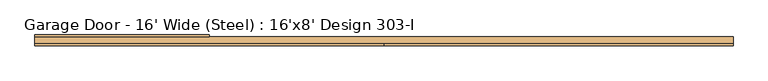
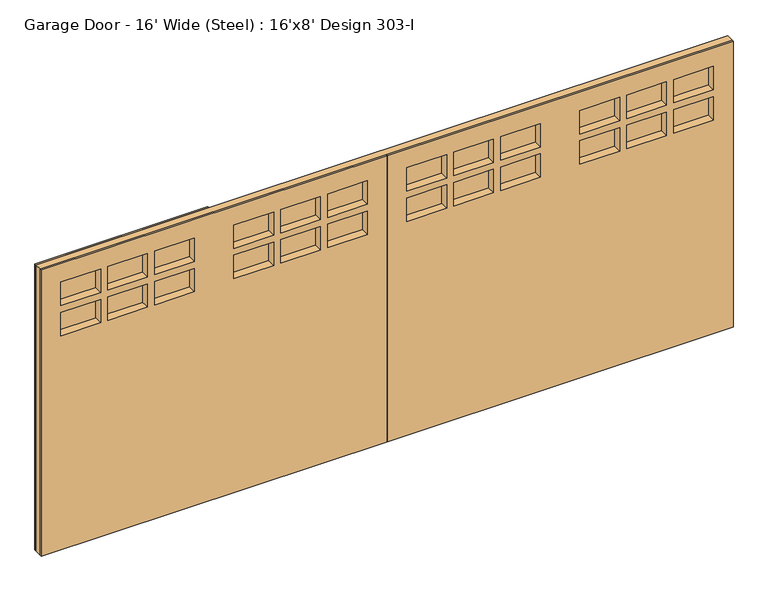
"""IFC4 building model written with IfcOpenShell, lengths in millimetres: door geometry, Garage Door - 16' Wide (Steel) : 16'x8' Design 303-I."""

from ifc_helpers import new_model, si_unit, frame, origin, place, context, project, spatial, polyline, ellipse_curve, outline, extrude, faceted_brep, source, transform, mapped, element, save
from ifc_brep_helpers import plane_surface, cylinder_surface, advanced_brep


def garage_door_16_wide_steel_16_x8_design_303_i_4d817679(model_context):
    return source(origin(), model_context, "Body", "SolidModel", [
        advanced_brep(
        [(-2009.775, -107.15625, 1778.0), (-2009.775, -107.15625, 1584.325), (-2019.3, -116.68125, 1593.85), (-2019.3, -116.68125, 1768.475), (-2009.775, -103.98125, 1778.0), (-2009.775, -103.98125, 1584.325), (-2006.6, -116.68125, 1781.175), (-2006.6, -116.68125, 1581.15), (-2006.6, -103.98125, 1581.15), (-2006.6, -103.98125, 1781.175), (-2308.225, -107.15625, 1584.325), (-2298.7, -116.68125, 1593.85), (-2308.225, -103.98125, 1584.325), (-2311.4, -116.68125, 1581.15), (-2311.4, -103.98125, 1581.15), (-2308.225, -107.15625, 1778.0), (-2298.7, -116.68125, 1768.475), (-2308.225, -103.98125, 1778.0), (-2311.4, -116.68125, 1781.175), (-2311.4, -103.98125, 1781.175)],
        [
            (0, 1),
            (1, 2, ellipse_curve(frame((-2009.775, -116.68125, 1584.325), z_axis=(0.7071067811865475, 0.0, 0.7071067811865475), x_axis=(-0.7071067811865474, 0.0, 0.7071067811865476)), 13.4703842, 9.525)),
            (2, 3),
            (3, 0, ellipse_curve(frame((-2009.775, -116.68125, 1778.0), z_axis=(0.7071067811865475, 0.0, -0.7071067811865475), x_axis=(0.7071067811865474, 0.0, 0.7071067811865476)), 13.4703842, 9.525)),
            (4, 5),
            (5, 1),
            (0, 4),
            (6, 7),
            (7, 8),
            (8, 9),
            (9, 6),
            (1, 10),
            (10, 11, ellipse_curve(frame((-2308.225, -116.68125, 1584.325), z_axis=(0.7071067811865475, 0.0, -0.7071067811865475), x_axis=(0.7071067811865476, 0.0, 0.7071067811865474)), 13.4703842, 9.525)),
            (11, 2),
            (5, 12),
            (12, 10),
            (7, 13),
            (13, 14),
            (14, 8),
            (10, 15),
            (15, 16, ellipse_curve(frame((-2308.225, -116.68125, 1778.0), z_axis=(-0.7071067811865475, 0.0, -0.7071067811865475), x_axis=(0.7071067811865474, 0.0, -0.7071067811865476)), 13.4703842, 9.525)),
            (16, 11),
            (12, 17),
            (17, 15),
            (13, 18),
            (18, 19),
            (19, 14),
            (6, 18),
            (16, 3),
            (15, 0),
            (17, 4),
            (19, 9),
        ],
        [
            cylinder_surface(frame((-2009.775, -116.68125, 1781.175), z_axis=(0.0, 0.0, 1.0), x_axis=(1.0, 0.0, 0.0)), 9.525),
            plane_surface(frame((-2009.775, -107.15625, 1778.0), z_axis=(-1.0, 0.0, 0.0), x_axis=(0.0, 0.0, -1.0))),
            plane_surface(frame((-2006.6, -103.98125, 1781.175), z_axis=(1.0, 0.0, 0.0), x_axis=(0.0, 0.0, -1.0))),
            cylinder_surface(frame((-2006.6, -116.68125, 1584.325), z_axis=(1.0, 0.0, 0.0), x_axis=(0.0, 0.0, -1.0)), 9.525),
            plane_surface(frame((-2009.775, -107.15625, 1584.325), z_axis=(0.0, 0.0, 1.0), x_axis=(-1.0, 0.0, 0.0))),
            plane_surface(frame((-2006.6, -103.98125, 1581.15), z_axis=(0.0, 0.0, -1.0), x_axis=(-1.0, 0.0, 0.0))),
            cylinder_surface(frame((-2308.225, -116.68125, 1581.15), z_axis=(0.0, 0.0, -1.0), x_axis=(-1.0, 0.0, 0.0)), 9.525),
            plane_surface(frame((-2308.225, -107.15625, 1584.325), z_axis=(1.0, 0.0, 0.0), x_axis=(0.0, 0.0, 1.0))),
            plane_surface(frame((-2311.4, -103.98125, 1581.15), z_axis=(-1.0, 0.0, 0.0), x_axis=(0.0, 0.0, 1.0))),
            plane_surface(frame((-2311.4, -116.68125, 1781.175), z_axis=(0.0, -1.0, 0.0), x_axis=(1.0, 0.0, 0.0))),
            cylinder_surface(frame((-2311.4, -116.68125, 1778.0), z_axis=(-1.0, 0.0, 0.0), x_axis=(0.0, 0.0, 1.0)), 9.525),
            plane_surface(frame((-2308.225, -107.15625, 1778.0), z_axis=(0.0, 0.0, -1.0), x_axis=(1.0, 0.0, 0.0))),
            plane_surface(frame((-2308.225, -103.98125, 1778.0), z_axis=(0.0, 1.0, 0.0), x_axis=(1.0, 0.0, 0.0))),
            plane_surface(frame((-2311.4, -103.98125, 1781.175), z_axis=(0.0, 0.0, 1.0), x_axis=(1.0, 0.0, 0.0))),
        ],
        [
            (0, [[1, 2, 3, 4]]),
            (1, [[5, 6, -1, 7]]),
            (2, [[8, 9, 10, 11]]),
            (3, [[12, 13, 14, -2]]),
            (4, [[15, 16, -12, -6]]),
            (5, [[17, 18, 19, -9]]),
            (6, [[20, 21, 22, -13]]),
            (7, [[23, 24, -20, -16]]),
            (8, [[25, 26, 27, -18]]),
            (9, [[-8, 28, -25, -17], [-3, -14, -22, 29]]),
            (10, [[30, -4, -29, -21]]),
            (11, [[31, -7, -30, -24]]),
            (12, [[-10, -19, -27, 32], [-5, -31, -23, -15]]),
            (13, [[-28, -11, -32, -26]]),
        ],
    ),
        advanced_brep(
        [(-1981.2, -103.98125, 1466.85), (-1981.2, -103.98125, 127.0), (-1981.2, -116.68125, 127.0), (-1981.2, -116.68125, 1466.85), (-1978.025, -107.15625, 1463.675), (-1978.025, -107.15625, 130.175), (-1978.025, -103.98125, 130.175), (-1978.025, -103.98125, 1463.675), (-1968.5, -116.68125, 1454.15), (-1968.5, -116.68125, 139.7), (-1676.4, -103.98125, 127.0), (-1676.4, -116.68125, 127.0), (-1679.575, -107.15625, 130.175), (-1679.575, -103.98125, 130.175), (-1689.1, -116.68125, 139.7), (-1676.4, -103.98125, 1466.85), (-1676.4, -116.68125, 1466.85), (-1679.575, -107.15625, 1463.675), (-1679.575, -103.98125, 1463.675), (-1689.1, -116.68125, 1454.15)],
        [
            (0, 1),
            (1, 2),
            (2, 3),
            (3, 0),
            (4, 5),
            (5, 6),
            (6, 7),
            (7, 4),
            (8, 9),
            (9, 5, ellipse_curve(frame((-1978.025, -116.68125, 130.175), z_axis=(-0.7071067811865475, 0.0, 0.7071067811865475), x_axis=(0.7071067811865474, 0.0, 0.7071067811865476)), 13.4703842, 9.525)),
            (4, 8, ellipse_curve(frame((-1978.025, -116.68125, 1463.675), z_axis=(-0.7071067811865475, 0.0, -0.7071067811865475), x_axis=(-0.7071067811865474, 0.0, 0.7071067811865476)), 13.4703842, 9.525)),
            (1, 10),
            (10, 11),
            (11, 2),
            (5, 12),
            (12, 13),
            (13, 6),
            (9, 14),
            (14, 12, ellipse_curve(frame((-1679.575, -116.68125, 130.175), z_axis=(-0.7071067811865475, 0.0, -0.7071067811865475), x_axis=(-0.7071067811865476, 0.0, 0.7071067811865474)), 13.4703842, 9.525)),
            (10, 15),
            (15, 16),
            (16, 11),
            (12, 17),
            (17, 18),
            (18, 13),
            (14, 19),
            (19, 17, ellipse_curve(frame((-1679.575, -116.68125, 1463.675), z_axis=(0.7071067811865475, 0.0, -0.7071067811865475), x_axis=(-0.7071067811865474, 0.0, -0.7071067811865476)), 13.4703842, 9.525)),
            (15, 0),
            (3, 16),
            (18, 7),
            (17, 4),
            (19, 8),
        ],
        [
            plane_surface(frame((-1981.2, -116.68125, 1466.85), z_axis=(-1.0, 0.0, 0.0), x_axis=(0.0, 0.0, -1.0))),
            plane_surface(frame((-1978.025, -103.98125, 1463.675), z_axis=(1.0, 0.0, 0.0), x_axis=(0.0, 0.0, -1.0))),
            cylinder_surface(frame((-1978.025, -116.68125, 1466.85), z_axis=(0.0, 0.0, 1.0), x_axis=(1.0, 0.0, 0.0)), 9.525),
            plane_surface(frame((-1981.2, -116.68125, 127.0), z_axis=(0.0, 0.0, -1.0), x_axis=(1.0, 0.0, 0.0))),
            plane_surface(frame((-1978.025, -103.98125, 130.175), z_axis=(0.0, 0.0, 1.0), x_axis=(1.0, 0.0, 0.0))),
            cylinder_surface(frame((-1981.2, -116.68125, 130.175), z_axis=(-1.0, 0.0, 0.0), x_axis=(0.0, 0.0, 1.0)), 9.525),
            plane_surface(frame((-1676.4, -116.68125, 127.0), z_axis=(1.0, 0.0, 0.0), x_axis=(0.0, 0.0, 1.0))),
            plane_surface(frame((-1679.575, -103.98125, 130.175), z_axis=(-1.0, 0.0, 0.0), x_axis=(0.0, 0.0, 1.0))),
            cylinder_surface(frame((-1679.575, -116.68125, 127.0), z_axis=(0.0, 0.0, -1.0), x_axis=(-1.0, 0.0, 0.0)), 9.525),
            plane_surface(frame((-1676.4, -116.68125, 1466.85), z_axis=(0.0, 0.0, 1.0), x_axis=(-1.0, 0.0, 0.0))),
            plane_surface(frame((-1676.4, -103.98125, 1466.85), z_axis=(0.0, 1.0, 0.0), x_axis=(-1.0, 0.0, 0.0))),
            plane_surface(frame((-1679.575, -103.98125, 1463.675), z_axis=(0.0, 0.0, -1.0), x_axis=(-1.0, 0.0, 0.0))),
            cylinder_surface(frame((-1676.4, -116.68125, 1463.675), z_axis=(1.0, 0.0, 0.0), x_axis=(0.0, 0.0, -1.0)), 9.525),
            plane_surface(frame((-1689.1, -116.68125, 1454.15), z_axis=(0.0, -1.0, 0.0), x_axis=(-1.0, 0.0, 0.0))),
        ],
        [
            (0, [[1, 2, 3, 4]]),
            (1, [[5, 6, 7, 8]]),
            (2, [[9, 10, -5, 11]]),
            (3, [[12, 13, 14, -2]]),
            (4, [[15, 16, 17, -6]]),
            (5, [[18, 19, -15, -10]]),
            (6, [[20, 21, 22, -13]]),
            (7, [[23, 24, 25, -16]]),
            (8, [[26, 27, -23, -19]]),
            (9, [[28, -4, 29, -21]]),
            (10, [[-1, -28, -20, -12], [-7, -17, -25, 30]]),
            (11, [[31, -8, -30, -24]]),
            (12, [[32, -11, -31, -27]]),
            (13, [[-3, -14, -22, -29], [-9, -32, -26, -18]]),
        ],
    ),
        advanced_brep(
        [(-2311.4, -103.98125, 1466.85), (-2311.4, -103.98125, 127.0), (-2311.4, -116.68125, 127.0), (-2311.4, -116.68125, 1466.85), (-2308.225, -107.15625, 1463.675), (-2308.225, -107.15625, 130.175), (-2308.225, -103.98125, 130.175), (-2308.225, -103.98125, 1463.675), (-2298.7, -116.68125, 1454.15), (-2298.7, -116.68125, 139.7), (-2019.3, -103.98125, 127.0), (-2019.3, -116.68125, 127.0), (-2022.475, -107.15625, 130.175), (-2022.475, -103.98125, 130.175), (-2032.0, -116.68125, 139.7), (-2019.3, -103.98125, 1466.85), (-2019.3, -116.68125, 1466.85), (-2022.475, -107.15625, 1463.675), (-2022.475, -103.98125, 1463.675), (-2032.0, -116.68125, 1454.15)],
        [
            (0, 1),
            (1, 2),
            (2, 3),
            (3, 0),
            (4, 5),
            (5, 6),
            (6, 7),
            (7, 4),
            (8, 9),
            (9, 5, ellipse_curve(frame((-2308.225, -116.68125, 130.175), z_axis=(-0.7071067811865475, 0.0, 0.7071067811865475), x_axis=(0.7071067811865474, 0.0, 0.7071067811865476)), 13.4703842, 9.525)),
            (4, 8, ellipse_curve(frame((-2308.225, -116.68125, 1463.675), z_axis=(-0.7071067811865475, 0.0, -0.7071067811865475), x_axis=(-0.7071067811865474, 0.0, 0.7071067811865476)), 13.4703842, 9.525)),
            (1, 10),
            (10, 11),
            (11, 2),
            (5, 12),
            (12, 13),
            (13, 6),
            (9, 14),
            (14, 12, ellipse_curve(frame((-2022.475, -116.68125, 130.175), z_axis=(-0.7071067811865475, 0.0, -0.7071067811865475), x_axis=(-0.7071067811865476, 0.0, 0.7071067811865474)), 13.4703842, 9.525)),
            (10, 15),
            (15, 16),
            (16, 11),
            (12, 17),
            (17, 18),
            (18, 13),
            (14, 19),
            (19, 17, ellipse_curve(frame((-2022.475, -116.68125, 1463.675), z_axis=(0.7071067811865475, 0.0, -0.7071067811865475), x_axis=(-0.7071067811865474, 0.0, -0.7071067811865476)), 13.4703842, 9.525)),
            (15, 0),
            (3, 16),
            (18, 7),
            (17, 4),
            (19, 8),
        ],
        [
            plane_surface(frame((-2311.4, -116.68125, 1466.85), z_axis=(-1.0, 0.0, 0.0), x_axis=(0.0, 0.0, -1.0))),
            plane_surface(frame((-2308.225, -103.98125, 1463.675), z_axis=(1.0, 0.0, 0.0), x_axis=(0.0, 0.0, -1.0))),
            cylinder_surface(frame((-2308.225, -116.68125, 1466.85), z_axis=(0.0, 0.0, 1.0), x_axis=(1.0, 0.0, 0.0)), 9.525),
            plane_surface(frame((-2311.4, -116.68125, 127.0), z_axis=(0.0, 0.0, -1.0), x_axis=(1.0, 0.0, 0.0))),
            plane_surface(frame((-2308.225, -103.98125, 130.175), z_axis=(0.0, 0.0, 1.0), x_axis=(1.0, 0.0, 0.0))),
            cylinder_surface(frame((-2311.4, -116.68125, 130.175), z_axis=(-1.0, 0.0, 0.0), x_axis=(0.0, 0.0, 1.0)), 9.525),
            plane_surface(frame((-2019.3, -116.68125, 127.0), z_axis=(1.0, 0.0, 0.0), x_axis=(0.0, 0.0, 1.0))),
            plane_surface(frame((-2022.475, -103.98125, 130.175), z_axis=(-1.0, 0.0, 0.0), x_axis=(0.0, 0.0, 1.0))),
            cylinder_surface(frame((-2022.475, -116.68125, 127.0), z_axis=(0.0, 0.0, -1.0), x_axis=(-1.0, 0.0, 0.0)), 9.525),
            plane_surface(frame((-2019.3, -116.68125, 1466.85), z_axis=(0.0, 0.0, 1.0), x_axis=(-1.0, 0.0, 0.0))),
            plane_surface(frame((-2019.3, -103.98125, 1466.85), z_axis=(0.0, 1.0, 0.0), x_axis=(-1.0, 0.0, 0.0))),
            plane_surface(frame((-2022.475, -103.98125, 1463.675), z_axis=(0.0, 0.0, -1.0), x_axis=(-1.0, 0.0, 0.0))),
            cylinder_surface(frame((-2019.3, -116.68125, 1463.675), z_axis=(1.0, 0.0, 0.0), x_axis=(0.0, 0.0, -1.0)), 9.525),
            plane_surface(frame((-2032.0, -116.68125, 1454.15), z_axis=(0.0, -1.0, 0.0), x_axis=(-1.0, 0.0, 0.0))),
        ],
        [
            (0, [[1, 2, 3, 4]]),
            (1, [[5, 6, 7, 8]]),
            (2, [[9, 10, -5, 11]]),
            (3, [[12, 13, 14, -2]]),
            (4, [[15, 16, 17, -6]]),
            (5, [[18, 19, -15, -10]]),
            (6, [[20, 21, 22, -13]]),
            (7, [[23, 24, 25, -16]]),
            (8, [[26, 27, -23, -19]]),
            (9, [[28, -4, 29, -21]]),
            (10, [[-1, -28, -20, -12], [-7, -17, -25, 30]]),
            (11, [[31, -8, -30, -24]]),
            (12, [[32, -11, -31, -27]]),
            (13, [[-3, -14, -22, -29], [-9, -32, -26, -18]]),
        ],
    ),
        extrude(outline(polyline([(-2019.3, -116.68125), (-2019.3, -119.85625), (-2311.4, -119.85625), (-2311.4, -116.68125), (-2019.3, -116.68125)])), frame((0.0, 0.0, 127.0), z_axis=(0.0, 0.0, 1.0), x_axis=(1.0, 0.0, 0.0)), (0.0, 0.0, 1.0), 1339.85),
        extrude(outline(polyline([(-1346.2, -116.68125), (-1346.2, -119.85625), (-1638.3, -119.85625), (-1638.3, -116.68125), (-1346.2, -116.68125)])), frame((0.0, 0.0, 127.0), z_axis=(0.0, 0.0, 1.0), x_axis=(1.0, 0.0, 0.0)), (0.0, 0.0, 1.0), 1339.85),
        extrude(outline(polyline([(-1676.4, -116.68125), (-1676.4, -119.85625), (-1981.2, -119.85625), (-1981.2, -116.68125), (-1676.4, -116.68125)])), frame((0.0, 0.0, 127.0), z_axis=(0.0, 0.0, 1.0), x_axis=(1.0, 0.0, 0.0)), (0.0, 0.0, 1.0), 1339.85),
        extrude(outline(polyline([(2133.6, -1219.2), (2133.6, -2438.4), (0.0, -2438.4), (0.0, -1219.2), (2133.6, -1219.2)]), holes=[polyline([(1806.575, -2311.4), (2006.6, -2311.4), (2006.6, -2006.6), (1806.575, -2006.6), (1806.575, -2311.4)]), polyline([(1781.175, -2311.4), (1781.175, -2006.6), (1581.15, -2006.6), (1581.15, -2311.4), (1781.175, -2311.4)]), polyline([(1806.575, -1981.2), (2006.6, -1981.2), (2006.6, -1676.4), (1806.575, -1676.4), (1806.575, -1981.2)]), polyline([(1581.15, -1981.2), (1781.175, -1981.2), (1781.175, -1676.4), (1581.15, -1676.4), (1581.15, -1981.2)]), polyline([(1806.575, -1651.0), (2006.6, -1651.0), (2006.6, -1346.2), (1806.575, -1346.2), (1806.575, -1651.0)]), polyline([(1581.15, -1651.0), (1781.175, -1651.0), (1781.175, -1346.2), (1581.15, -1346.2), (1581.15, -1651.0)]), polyline([(1466.85, -2311.4), (1466.85, -2019.3), (127.0, -2019.3), (127.0, -2311.4), (1466.85, -2311.4)]), polyline([(127.0, -1346.2), (127.0, -1638.3), (1466.85, -1638.3), (1466.85, -1346.2), (127.0, -1346.2)]), polyline([(127.0, -1981.2), (1466.85, -1981.2), (1466.85, -1676.4), (127.0, -1676.4), (127.0, -1981.2)])]), frame((0.0, -116.68125, 0.0), z_axis=(0.0, 1.0, 0.0), x_axis=(0.0, 0.0, 1.0)), (0.0, 0.0, 1.0), 12.7),
        faceted_brep([(2438.4, -180.18125, 2133.6), (0.0, -180.18125, 2133.6), (0.0, -180.18125, 0.0), (2438.4, -180.18125, 0.0), (139.7, -180.18125, 1593.85), (139.7, -180.18125, 1768.475), (419.1, -180.18125, 1768.475), (419.1, -180.18125, 1593.85), (139.7, -180.18125, 1819.275), (139.7, -180.18125, 1993.9), (419.1, -180.18125, 1993.9), (419.1, -180.18125, 1819.275), (469.9, -180.18125, 1593.85), (469.9, -180.18125, 1768.475), (749.3, -180.18125, 1768.475), (749.3, -180.18125, 1593.85), (469.9, -180.18125, 1819.275), (469.9, -180.18125, 1993.9), (749.3, -180.18125, 1993.9), (749.3, -180.18125, 1819.275), (800.1, -180.18125, 1819.275), (800.1, -180.18125, 1993.9), (1079.5, -180.18125, 1993.9), (1079.5, -180.18125, 1819.275), (800.1, -180.18125, 1593.85), (800.1, -180.18125, 1768.475), (1079.5, -180.18125, 1768.475), (1079.5, -180.18125, 1593.85), (2298.7, -180.18125, 1993.9), (2298.7, -180.18125, 1819.275), (2019.3, -180.18125, 1819.275), (2019.3, -180.18125, 1993.9), (2019.3, -180.18125, 1593.85), (2019.3, -180.18125, 1768.475), (2298.7, -180.18125, 1768.475), (2298.7, -180.18125, 1593.85), (1689.1, -180.18125, 1593.85), (1689.1, -180.18125, 1768.475), (1968.5, -180.18125, 1768.475), (1968.5, -180.18125, 1593.85), (1689.1, -180.18125, 1819.275), (1689.1, -180.18125, 1993.9), (1968.5, -180.18125, 1993.9), (1968.5, -180.18125, 1819.275), (1358.9, -180.18125, 1593.85), (1358.9, -180.18125, 1768.475), (1638.3, -180.18125, 1768.475), (1638.3, -180.18125, 1593.85), (1358.9, -180.18125, 1819.275), (1358.9, -180.18125, 1993.9), (1638.3, -180.18125, 1993.9), (1638.3, -180.18125, 1819.275), (2438.4, -167.48125, 2133.6), (2438.4, -167.48125, 0.0), (0.0, -167.48125, 0.0), (0.0, -167.48125, 2133.6), (1346.2, -167.48125, 2006.6), (1346.2, -167.48125, 1806.575), (1651.0, -167.48125, 1806.575), (1651.0, -167.48125, 2006.6), (1346.2, -167.48125, 1781.175), (1346.2, -167.48125, 1581.15), (1651.0, -167.48125, 1581.15), (1651.0, -167.48125, 1781.175), (1676.4, -167.48125, 2006.6), (1676.4, -167.48125, 1806.575), (1981.2, -167.48125, 1806.575), (1981.2, -167.48125, 2006.6), (1676.4, -167.48125, 1781.175), (1676.4, -167.48125, 1581.15), (1981.2, -167.48125, 1581.15), (1981.2, -167.48125, 1781.175), (2006.6, -167.48125, 1781.175), (2006.6, -167.48125, 1581.15), (2311.4, -167.48125, 1581.15), (2311.4, -167.48125, 1781.175), (2311.4, -167.48125, 1806.575), (2311.4, -167.48125, 2006.6), (2006.6, -167.48125, 2006.6), (2006.6, -167.48125, 1806.575), (787.4, -167.48125, 1781.175), (787.4, -167.48125, 1581.15), (1092.2, -167.48125, 1581.15), (1092.2, -167.48125, 1781.175), (787.4, -167.48125, 2006.6), (787.4, -167.48125, 1806.575), (1092.2, -167.48125, 1806.575), (1092.2, -167.48125, 2006.6), (457.2, -167.48125, 2006.6), (457.2, -167.48125, 1806.575), (762.0, -167.48125, 1806.575), (762.0, -167.48125, 2006.6), (457.2, -167.48125, 1781.175), (457.2, -167.48125, 1581.15), (762.0, -167.48125, 1581.15), (762.0, -167.48125, 1781.175), (127.0, -167.48125, 2006.6), (127.0, -167.48125, 1806.575), (431.8, -167.48125, 1806.575), (431.8, -167.48125, 2006.6), (127.0, -167.48125, 1781.175), (127.0, -167.48125, 1581.15), (431.8, -167.48125, 1581.15), (431.8, -167.48125, 1781.175), (1346.2, -119.85625, 2006.6), (1346.2, -119.85625, 1806.575), (1358.9, -119.85625, 1993.9), (1358.9, -119.85625, 1819.275), (1651.0, -119.85625, 1806.575), (1638.3, -119.85625, 1819.275), (1651.0, -119.85625, 2006.6), (1638.3, -119.85625, 1993.9), (1346.2, -119.85625, 1781.175), (1346.2, -119.85625, 1581.15), (1358.9, -119.85625, 1768.475), (1358.9, -119.85625, 1593.85), (1651.0, -119.85625, 1581.15), (1638.3, -119.85625, 1593.85), (1651.0, -119.85625, 1781.175), (1638.3, -119.85625, 1768.475), (1676.4, -119.85625, 2006.6), (1676.4, -119.85625, 1806.575), (1689.1, -119.85625, 1993.9), (1689.1, -119.85625, 1819.275), (1981.2, -119.85625, 1806.575), (1968.5, -119.85625, 1819.275), (1981.2, -119.85625, 2006.6), (1968.5, -119.85625, 1993.9), (1676.4, -119.85625, 1781.175), (1676.4, -119.85625, 1581.15), (1689.1, -119.85625, 1768.475), (1689.1, -119.85625, 1593.85), (1981.2, -119.85625, 1581.15), (1968.5, -119.85625, 1593.85), (1981.2, -119.85625, 1781.175), (1968.5, -119.85625, 1768.475), (2006.6, -119.85625, 1781.175), (2006.6, -119.85625, 1581.15), (2019.3, -119.85625, 1768.475), (2019.3, -119.85625, 1593.85), (2311.4, -119.85625, 1581.15), (2298.7, -119.85625, 1593.85), (2311.4, -119.85625, 1781.175), (2298.7, -119.85625, 1768.475), (2298.7, -119.85625, 1993.9), (2298.7, -119.85625, 1819.275), (2311.4, -119.85625, 1806.575), (2311.4, -119.85625, 2006.6), (2019.3, -119.85625, 1819.275), (2006.6, -119.85625, 1806.575), (2006.6, -119.85625, 2006.6), (2019.3, -119.85625, 1993.9), (787.4, -119.85625, 1781.175), (787.4, -119.85625, 1581.15), (800.1, -119.85625, 1768.475), (800.1, -119.85625, 1593.85), (1092.2, -119.85625, 1581.15), (1079.5, -119.85625, 1593.85), (1092.2, -119.85625, 1781.175), (1079.5, -119.85625, 1768.475), (787.4, -119.85625, 2006.6), (787.4, -119.85625, 1806.575), (800.1, -119.85625, 1993.9), (800.1, -119.85625, 1819.275), (1092.2, -119.85625, 1806.575), (1079.5, -119.85625, 1819.275), (1092.2, -119.85625, 2006.6), (1079.5, -119.85625, 1993.9), (457.2, -119.85625, 2006.6), (457.2, -119.85625, 1806.575), (469.9, -119.85625, 1993.9), (469.9, -119.85625, 1819.275), (762.0, -119.85625, 1806.575), (749.3, -119.85625, 1819.275), (762.0, -119.85625, 2006.6), (749.3, -119.85625, 1993.9), (457.2, -119.85625, 1781.175), (457.2, -119.85625, 1581.15), (469.9, -119.85625, 1768.475), (469.9, -119.85625, 1593.85), (762.0, -119.85625, 1581.15), (749.3, -119.85625, 1593.85), (762.0, -119.85625, 1781.175), (749.3, -119.85625, 1768.475), (127.0, -119.85625, 2006.6), (127.0, -119.85625, 1806.575), (139.7, -119.85625, 1993.9), (139.7, -119.85625, 1819.275), (431.8, -119.85625, 1806.575), (419.1, -119.85625, 1819.275), (431.8, -119.85625, 2006.6), (419.1, -119.85625, 1993.9), (127.0, -119.85625, 1781.175), (127.0, -119.85625, 1581.15), (139.7, -119.85625, 1768.475), (139.7, -119.85625, 1593.85), (431.8, -119.85625, 1581.15), (419.1, -119.85625, 1593.85), (431.8, -119.85625, 1781.175), (419.1, -119.85625, 1768.475)], [[[0, 1, 2, 3], [4, 5, 6, 7], [8, 9, 10, 11], [12, 13, 14, 15], [16, 17, 18, 19], [20, 21, 22, 23], [24, 25, 26, 27], [28, 29, 30, 31], [32, 33, 34, 35], [36, 37, 38, 39], [40, 41, 42, 43], [44, 45, 46, 47], [48, 49, 50, 51]], [[52, 53, 54, 55], [56, 57, 58, 59], [60, 61, 62, 63], [64, 65, 66, 67], [68, 69, 70, 71], [72, 73, 74, 75], [76, 77, 78, 79], [80, 81, 82, 83], [84, 85, 86, 87], [88, 89, 90, 91], [92, 93, 94, 95], [96, 97, 98, 99], [100, 101, 102, 103]], [[1, 0, 52, 55]], [[2, 1, 55, 54]], [[3, 2, 54, 53]], [[0, 3, 53, 52]], [[104, 105, 57, 56]], [[106, 49, 48, 107]], [[105, 108, 58, 57]], [[107, 48, 51, 109]], [[108, 110, 59, 58]], [[109, 51, 50, 111]], [[110, 104, 56, 59]], [[49, 106, 111, 50]], [[105, 104, 110, 108], [106, 107, 109, 111]], [[112, 113, 61, 60]], [[114, 45, 44, 115]], [[113, 116, 62, 61]], [[115, 44, 47, 117]], [[116, 118, 63, 62]], [[117, 47, 46, 119]], [[118, 112, 60, 63]], [[45, 114, 119, 46]], [[113, 112, 118, 116], [114, 115, 117, 119]], [[120, 121, 65, 64]], [[122, 41, 40, 123]], [[121, 124, 66, 65]], [[123, 40, 43, 125]], [[124, 126, 67, 66]], [[125, 43, 42, 127]], [[126, 120, 64, 67]], [[41, 122, 127, 42]], [[121, 120, 126, 124], [122, 123, 125, 127]], [[128, 129, 69, 68]], [[130, 37, 36, 131]], [[129, 132, 70, 69]], [[131, 36, 39, 133]], [[132, 134, 71, 70]], [[133, 39, 38, 135]], [[134, 128, 68, 71]], [[37, 130, 135, 38]], [[129, 128, 134, 132], [130, 131, 133, 135]], [[136, 137, 73, 72]], [[138, 33, 32, 139]], [[137, 140, 74, 73]], [[139, 32, 35, 141]], [[140, 142, 75, 74]], [[141, 35, 34, 143]], [[142, 136, 72, 75]], [[33, 138, 143, 34]], [[137, 136, 142, 140], [138, 139, 141, 143]], [[28, 144, 145, 29]], [[146, 147, 77, 76]], [[29, 145, 148, 30]], [[149, 146, 76, 79]], [[147, 146, 149, 150], [145, 144, 151, 148]], [[30, 148, 151, 31]], [[150, 149, 79, 78]], [[144, 28, 31, 151]], [[147, 150, 78, 77]], [[152, 153, 81, 80]], [[154, 25, 24, 155]], [[153, 156, 82, 81]], [[155, 24, 27, 157]], [[156, 158, 83, 82]], [[157, 27, 26, 159]], [[158, 152, 80, 83]], [[25, 154, 159, 26]], [[153, 152, 158, 156], [154, 155, 157, 159]], [[160, 161, 85, 84]], [[162, 21, 20, 163]], [[161, 164, 86, 85]], [[163, 20, 23, 165]], [[164, 166, 87, 86]], [[165, 23, 22, 167]], [[166, 160, 84, 87]], [[21, 162, 167, 22]], [[161, 160, 166, 164], [162, 163, 165, 167]], [[168, 169, 89, 88]], [[170, 17, 16, 171]], [[169, 172, 90, 89]], [[171, 16, 19, 173]], [[172, 174, 91, 90]], [[173, 19, 18, 175]], [[174, 168, 88, 91]], [[17, 170, 175, 18]], [[169, 168, 174, 172], [170, 171, 173, 175]], [[176, 177, 93, 92]], [[178, 13, 12, 179]], [[177, 180, 94, 93]], [[179, 12, 15, 181]], [[180, 182, 95, 94]], [[181, 15, 14, 183]], [[182, 176, 92, 95]], [[13, 178, 183, 14]], [[177, 176, 182, 180], [178, 179, 181, 183]], [[184, 185, 97, 96]], [[186, 9, 8, 187]], [[185, 188, 98, 97]], [[187, 8, 11, 189]], [[188, 190, 99, 98]], [[189, 11, 10, 191]], [[190, 184, 96, 99]], [[9, 186, 191, 10]], [[185, 184, 190, 188], [186, 187, 189, 191]], [[192, 193, 101, 100]], [[194, 5, 4, 195]], [[193, 196, 102, 101]], [[195, 4, 7, 197]], [[196, 198, 103, 102]], [[197, 7, 6, 199]], [[198, 192, 100, 103]], [[5, 194, 199, 6]], [[193, 192, 198, 196], [194, 195, 197, 199]]]),
        faceted_brep([(-1092.2, -119.85625, 2006.6), (-1092.2, -119.85625, 1806.575), (-1092.2, -167.48125, 1806.575), (-1092.2, -167.48125, 2006.6), (-1079.5, -119.85625, 1993.9), (-1079.5, -180.18125, 1993.9), (-1079.5, -180.18125, 1819.275), (-1079.5, -119.85625, 1819.275), (-787.4, -119.85625, 1806.575), (-787.4, -167.48125, 1806.575), (-800.1, -180.18125, 1819.275), (-800.1, -119.85625, 1819.275), (-787.4, -119.85625, 2006.6), (-787.4, -167.48125, 2006.6), (-800.1, -180.18125, 1993.9), (-800.1, -119.85625, 1993.9), (-2438.4, -180.18125, 2133.6), (-2438.4, -180.18125, 0.0), (0.0, -180.18125, 0.0), (0.0, -180.18125, 2133.6), (-2298.7, -180.18125, 1819.275), (-2298.7, -180.18125, 1993.9), (-2019.3, -180.18125, 1993.9), (-2019.3, -180.18125, 1819.275), (-2298.7, -180.18125, 1593.85), (-2298.7, -180.18125, 1768.475), (-2019.3, -180.18125, 1768.475), (-2019.3, -180.18125, 1593.85), (-1968.5, -180.18125, 1593.85), (-1968.5, -180.18125, 1768.475), (-1689.1, -180.18125, 1768.475), (-1689.1, -180.18125, 1593.85), (-1968.5, -180.18125, 1819.275), (-1968.5, -180.18125, 1993.9), (-1689.1, -180.18125, 1993.9), (-1689.1, -180.18125, 1819.275), (-1638.3, -180.18125, 1593.85), (-1638.3, -180.18125, 1768.475), (-1358.9, -180.18125, 1768.475), (-1358.9, -180.18125, 1593.85), (-1358.9, -180.18125, 1993.9), (-1358.9, -180.18125, 1819.275), (-1638.3, -180.18125, 1819.275), (-1638.3, -180.18125, 1993.9), (-419.1, -180.18125, 1819.275), (-419.1, -180.18125, 1993.9), (-139.7, -180.18125, 1993.9), (-139.7, -180.18125, 1819.275), (-419.1, -180.18125, 1593.85), (-419.1, -180.18125, 1768.475), (-139.7, -180.18125, 1768.475), (-139.7, -180.18125, 1593.85), (-749.3, -180.18125, 1819.275), (-749.3, -180.18125, 1993.9), (-469.9, -180.18125, 1993.9), (-469.9, -180.18125, 1819.275), (-749.3, -180.18125, 1593.85), (-749.3, -180.18125, 1768.475), (-469.9, -180.18125, 1768.475), (-469.9, -180.18125, 1593.85), (-1079.5, -180.18125, 1593.85), (-1079.5, -180.18125, 1768.475), (-800.1, -180.18125, 1768.475), (-800.1, -180.18125, 1593.85), (-1092.2, -119.85625, 1781.175), (-1092.2, -119.85625, 1581.15), (-1092.2, -167.48125, 1581.15), (-1092.2, -167.48125, 1781.175), (-1079.5, -119.85625, 1768.475), (-1079.5, -119.85625, 1593.85), (-787.4, -119.85625, 1581.15), (-787.4, -167.48125, 1581.15), (-800.1, -119.85625, 1593.85), (-787.4, -119.85625, 1781.175), (-787.4, -167.48125, 1781.175), (-800.1, -119.85625, 1768.475), (-762.0, -119.85625, 1781.175), (-762.0, -119.85625, 1581.15), (-762.0, -167.48125, 1581.15), (-762.0, -167.48125, 1781.175), (-749.3, -119.85625, 1768.475), (-749.3, -119.85625, 1593.85), (-457.2, -119.85625, 1581.15), (-457.2, -167.48125, 1581.15), (-469.9, -119.85625, 1593.85), (-457.2, -119.85625, 1781.175), (-457.2, -167.48125, 1781.175), (-469.9, -119.85625, 1768.475), (-762.0, -119.85625, 2006.6), (-762.0, -119.85625, 1806.575), (-762.0, -167.48125, 1806.575), (-762.0, -167.48125, 2006.6), (-749.3, -119.85625, 1993.9), (-749.3, -119.85625, 1819.275), (-457.2, -119.85625, 1806.575), (-457.2, -167.48125, 1806.575), (-469.9, -119.85625, 1819.275), (-457.2, -119.85625, 2006.6), (-457.2, -167.48125, 2006.6), (-469.9, -119.85625, 1993.9), (-431.8, -119.85625, 1781.175), (-431.8, -119.85625, 1581.15), (-431.8, -167.48125, 1581.15), (-431.8, -167.48125, 1781.175), (-419.1, -119.85625, 1768.475), (-419.1, -119.85625, 1593.85), (-127.0, -119.85625, 1581.15), (-127.0, -167.48125, 1581.15), (-139.7, -119.85625, 1593.85), (-127.0, -119.85625, 1781.175), (-127.0, -167.48125, 1781.175), (-139.7, -119.85625, 1768.475), (-419.1, -119.85625, 1993.9), (-419.1, -119.85625, 1819.275), (-431.8, -119.85625, 2006.6), (-431.8, -119.85625, 1806.575), (-431.8, -167.48125, 1806.575), (-431.8, -167.48125, 2006.6), (-139.7, -119.85625, 1819.275), (-127.0, -119.85625, 1806.575), (-127.0, -167.48125, 1806.575), (-139.7, -119.85625, 1993.9), (-127.0, -119.85625, 2006.6), (-127.0, -167.48125, 2006.6), (-2438.4, -167.48125, 2133.6), (0.0, -167.48125, 2133.6), (0.0, -167.48125, 0.0), (-2438.4, -167.48125, 0.0), (-1346.2, -167.48125, 1806.575), (-1346.2, -167.48125, 2006.6), (-1651.0, -167.48125, 2006.6), (-1651.0, -167.48125, 1806.575), (-1651.0, -167.48125, 1781.175), (-1651.0, -167.48125, 1581.15), (-1346.2, -167.48125, 1581.15), (-1346.2, -167.48125, 1781.175), (-1981.2, -167.48125, 2006.6), (-1981.2, -167.48125, 1806.575), (-1676.4, -167.48125, 1806.575), (-1676.4, -167.48125, 2006.6), (-1981.2, -167.48125, 1781.175), (-1981.2, -167.48125, 1581.15), (-1676.4, -167.48125, 1581.15), (-1676.4, -167.48125, 1781.175), (-2311.4, -167.48125, 1781.175), (-2311.4, -167.48125, 1581.15), (-2006.6, -167.48125, 1581.15), (-2006.6, -167.48125, 1781.175), (-2311.4, -167.48125, 2006.6), (-2311.4, -167.48125, 1806.575), (-2006.6, -167.48125, 1806.575), (-2006.6, -167.48125, 2006.6), (-1358.9, -119.85625, 1993.9), (-1358.9, -119.85625, 1819.275), (-1346.2, -119.85625, 1806.575), (-1346.2, -119.85625, 2006.6), (-1638.3, -119.85625, 1819.275), (-1651.0, -119.85625, 1806.575), (-1651.0, -119.85625, 2006.6), (-1638.3, -119.85625, 1993.9), (-1651.0, -119.85625, 1781.175), (-1651.0, -119.85625, 1581.15), (-1638.3, -119.85625, 1768.475), (-1638.3, -119.85625, 1593.85), (-1346.2, -119.85625, 1581.15), (-1358.9, -119.85625, 1593.85), (-1346.2, -119.85625, 1781.175), (-1358.9, -119.85625, 1768.475), (-1981.2, -119.85625, 2006.6), (-1981.2, -119.85625, 1806.575), (-1968.5, -119.85625, 1993.9), (-1968.5, -119.85625, 1819.275), (-1676.4, -119.85625, 1806.575), (-1689.1, -119.85625, 1819.275), (-1676.4, -119.85625, 2006.6), (-1689.1, -119.85625, 1993.9), (-1981.2, -119.85625, 1781.175), (-1981.2, -119.85625, 1581.15), (-1968.5, -119.85625, 1768.475), (-1968.5, -119.85625, 1593.85), (-1676.4, -119.85625, 1581.15), (-1689.1, -119.85625, 1593.85), (-1676.4, -119.85625, 1781.175), (-1689.1, -119.85625, 1768.475), (-2311.4, -119.85625, 1781.175), (-2311.4, -119.85625, 1581.15), (-2298.7, -119.85625, 1768.475), (-2298.7, -119.85625, 1593.85), (-2006.6, -119.85625, 1581.15), (-2019.3, -119.85625, 1593.85), (-2006.6, -119.85625, 1781.175), (-2019.3, -119.85625, 1768.475), (-2311.4, -119.85625, 2006.6), (-2311.4, -119.85625, 1806.575), (-2298.7, -119.85625, 1993.9), (-2298.7, -119.85625, 1819.275), (-2006.6, -119.85625, 1806.575), (-2019.3, -119.85625, 1819.275), (-2006.6, -119.85625, 2006.6), (-2019.3, -119.85625, 1993.9)], [[[0, 1, 2, 3]], [[4, 5, 6, 7]], [[1, 8, 9, 2]], [[7, 6, 10, 11]], [[8, 12, 13, 9]], [[11, 10, 14, 15]], [[12, 0, 3, 13]], [[16, 17, 18, 19], [6, 5, 14, 10], [20, 21, 22, 23], [24, 25, 26, 27], [28, 29, 30, 31], [32, 33, 34, 35], [36, 37, 38, 39], [40, 41, 42, 43], [44, 45, 46, 47], [48, 49, 50, 51], [52, 53, 54, 55], [56, 57, 58, 59], [60, 61, 62, 63]], [[5, 4, 15, 14]], [[1, 0, 12, 8], [4, 7, 11, 15]], [[64, 65, 66, 67]], [[68, 61, 60, 69]], [[65, 70, 71, 66]], [[69, 60, 63, 72]], [[70, 73, 74, 71]], [[72, 63, 62, 75]], [[73, 64, 67, 74]], [[61, 68, 75, 62]], [[65, 64, 73, 70], [68, 69, 72, 75]], [[76, 77, 78, 79]], [[80, 57, 56, 81]], [[77, 82, 83, 78]], [[81, 56, 59, 84]], [[82, 85, 86, 83]], [[84, 59, 58, 87]], [[85, 76, 79, 86]], [[57, 80, 87, 58]], [[77, 76, 85, 82], [80, 81, 84, 87]], [[88, 89, 90, 91]], [[92, 53, 52, 93]], [[89, 94, 95, 90]], [[93, 52, 55, 96]], [[94, 97, 98, 95]], [[96, 55, 54, 99]], [[97, 88, 91, 98]], [[53, 92, 99, 54]], [[89, 88, 97, 94], [92, 93, 96, 99]], [[100, 101, 102, 103]], [[104, 49, 48, 105]], [[101, 106, 107, 102]], [[105, 48, 51, 108]], [[106, 109, 110, 107]], [[108, 51, 50, 111]], [[109, 100, 103, 110]], [[49, 104, 111, 50]], [[101, 100, 109, 106], [104, 105, 108, 111]], [[112, 45, 44, 113]], [[114, 115, 116, 117]], [[113, 44, 47, 118]], [[115, 119, 120, 116]], [[118, 47, 46, 121]], [[119, 122, 123, 120]], [[45, 112, 121, 46]], [[115, 114, 122, 119], [112, 113, 118, 121]], [[122, 114, 117, 123]], [[124, 125, 126, 127], [3, 2, 9, 13], [67, 66, 71, 74], [79, 78, 83, 86], [91, 90, 95, 98], [103, 102, 107, 110], [117, 116, 120, 123], [128, 129, 130, 131], [132, 133, 134, 135], [136, 137, 138, 139], [140, 141, 142, 143], [144, 145, 146, 147], [148, 149, 150, 151]], [[17, 16, 124, 127]], [[18, 17, 127, 126]], [[19, 18, 126, 125]], [[16, 19, 125, 124]], [[40, 152, 153, 41]], [[154, 155, 129, 128]], [[41, 153, 156, 42]], [[157, 154, 128, 131]], [[155, 154, 157, 158], [153, 152, 159, 156]], [[42, 156, 159, 43]], [[158, 157, 131, 130]], [[152, 40, 43, 159]], [[155, 158, 130, 129]], [[160, 161, 133, 132]], [[162, 37, 36, 163]], [[161, 164, 134, 133]], [[163, 36, 39, 165]], [[164, 166, 135, 134]], [[165, 39, 38, 167]], [[166, 160, 132, 135]], [[37, 162, 167, 38]], [[161, 160, 166, 164], [162, 163, 165, 167]], [[168, 169, 137, 136]], [[170, 33, 32, 171]], [[169, 172, 138, 137]], [[171, 32, 35, 173]], [[172, 174, 139, 138]], [[173, 35, 34, 175]], [[174, 168, 136, 139]], [[33, 170, 175, 34]], [[169, 168, 174, 172], [170, 171, 173, 175]], [[176, 177, 141, 140]], [[178, 29, 28, 179]], [[177, 180, 142, 141]], [[179, 28, 31, 181]], [[180, 182, 143, 142]], [[181, 31, 30, 183]], [[182, 176, 140, 143]], [[29, 178, 183, 30]], [[177, 176, 182, 180], [178, 179, 181, 183]], [[184, 185, 145, 144]], [[186, 25, 24, 187]], [[185, 188, 146, 145]], [[187, 24, 27, 189]], [[188, 190, 147, 146]], [[189, 27, 26, 191]], [[190, 184, 144, 147]], [[25, 186, 191, 26]], [[185, 184, 190, 188], [186, 187, 189, 191]], [[192, 193, 149, 148]], [[194, 21, 20, 195]], [[193, 196, 150, 149]], [[195, 20, 23, 197]], [[196, 198, 151, 150]], [[197, 23, 22, 199]], [[198, 192, 148, 151]], [[21, 194, 199, 22]], [[193, 192, 198, 196], [194, 195, 197, 199]]]),
        extrude(outline(polyline([(2311.4, -119.85625), (2006.6, -119.85625), (2006.6, -116.68125), (2311.4, -116.68125), (2311.4, -119.85625)])), frame((0.0, 0.0, 1806.575), z_axis=(0.0, 0.0, 1.0), x_axis=(1.0, 0.0, 0.0)), (0.0, 0.0, 1.0), 200.025),
        extrude(outline(polyline([(1651.0, -119.85625), (1346.2, -119.85625), (1346.2, -116.68125), (1651.0, -116.68125), (1651.0, -119.85625)])), frame((0.0, 0.0, 1806.575), z_axis=(0.0, 0.0, 1.0), x_axis=(1.0, 0.0, 0.0)), (0.0, 0.0, 1.0), 200.025),
        extrude(outline(polyline([(2311.4, -119.85625), (2006.6, -119.85625), (2006.6, -116.68125), (2311.4, -116.68125), (2311.4, -119.85625)])), frame((0.0, 0.0, 1581.15), z_axis=(0.0, 0.0, 1.0), x_axis=(1.0, 0.0, 0.0)), (0.0, 0.0, 1.0), 200.025),
        extrude(outline(polyline([(-1346.2, -119.85625), (-1651.0, -119.85625), (-1651.0, -116.68125), (-1346.2, -116.68125), (-1346.2, -119.85625)])), frame((0.0, 0.0, 1806.575), z_axis=(0.0, 0.0, 1.0), x_axis=(1.0, 0.0, 0.0)), (0.0, 0.0, 1.0), 200.025),
        extrude(outline(polyline([(-2006.6, -119.85625), (-2311.4, -119.85625), (-2311.4, -116.68125), (-2006.6, -116.68125), (-2006.6, -119.85625)])), frame((0.0, 0.0, 1581.15), z_axis=(0.0, 0.0, 1.0), x_axis=(1.0, 0.0, 0.0)), (0.0, 0.0, 1.0), 200.025),
        extrude(outline(polyline([(-2006.6, -119.85625), (-2311.4, -119.85625), (-2311.4, -116.68125), (-2006.6, -116.68125), (-2006.6, -119.85625)])), frame((0.0, 0.0, 1806.575), z_axis=(0.0, 0.0, 1.0), x_axis=(1.0, 0.0, 0.0)), (0.0, 0.0, 1.0), 200.025),
        extrude(outline(polyline([(1981.2, -119.85625), (1676.4, -119.85625), (1676.4, -116.68125), (1981.2, -116.68125), (1981.2, -119.85625)])), frame((0.0, 0.0, 1806.575), z_axis=(0.0, 0.0, 1.0), x_axis=(1.0, 0.0, 0.0)), (0.0, 0.0, 1.0), 200.025),
        extrude(outline(polyline([(1651.0, -119.85625), (1346.2, -119.85625), (1346.2, -116.68125), (1651.0, -116.68125), (1651.0, -119.85625)])), frame((0.0, 0.0, 1581.15), z_axis=(0.0, 0.0, 1.0), x_axis=(1.0, 0.0, 0.0)), (0.0, 0.0, 1.0), 200.025),
        extrude(outline(polyline([(-1346.2, -119.85625), (-1651.0, -119.85625), (-1651.0, -116.68125), (-1346.2, -116.68125), (-1346.2, -119.85625)])), frame((0.0, 0.0, 1581.15), z_axis=(0.0, 0.0, 1.0), x_axis=(1.0, 0.0, 0.0)), (0.0, 0.0, 1.0), 200.025),
        extrude(outline(polyline([(-1676.4, -119.85625), (-1981.2, -119.85625), (-1981.2, -116.68125), (-1676.4, -116.68125), (-1676.4, -119.85625)])), frame((0.0, 0.0, 1806.575), z_axis=(0.0, 0.0, 1.0), x_axis=(1.0, 0.0, 0.0)), (0.0, 0.0, 1.0), 200.025),
        extrude(outline(polyline([(-1676.4, -119.85625), (-1981.2, -119.85625), (-1981.2, -116.68125), (-1676.4, -116.68125), (-1676.4, -119.85625)])), frame((0.0, 0.0, 1581.15), z_axis=(0.0, 0.0, 1.0), x_axis=(1.0, 0.0, 0.0)), (0.0, 0.0, 1.0), 200.025),
        extrude(outline(polyline([(1981.2, -119.85625), (1676.4, -119.85625), (1676.4, -116.68125), (1981.2, -116.68125), (1981.2, -119.85625)])), frame((0.0, 0.0, 1581.15), z_axis=(0.0, 0.0, 1.0), x_axis=(1.0, 0.0, 0.0)), (0.0, 0.0, 1.0), 200.025),
        extrude(outline(polyline([(1092.2, -119.85625), (787.4, -119.85625), (787.4, -116.68125), (1092.2, -116.68125), (1092.2, -119.85625)])), frame((0.0, 0.0, 1581.15), z_axis=(0.0, 0.0, 1.0), x_axis=(1.0, 0.0, 0.0)), (0.0, 0.0, 1.0), 200.025),
        extrude(outline(polyline([(762.0, -119.85625), (457.2, -119.85625), (457.2, -116.68125), (762.0, -116.68125), (762.0, -119.85625)])), frame((0.0, 0.0, 1806.575), z_axis=(0.0, 0.0, 1.0), x_axis=(1.0, 0.0, 0.0)), (0.0, 0.0, 1.0), 200.025),
        extrude(outline(polyline([(431.8, -119.85625), (127.0, -119.85625), (127.0, -116.68125), (431.8, -116.68125), (431.8, -119.85625)])), frame((0.0, 0.0, 1806.575), z_axis=(0.0, 0.0, 1.0), x_axis=(1.0, 0.0, 0.0)), (0.0, 0.0, 1.0), 200.025),
        extrude(outline(polyline([(431.8, -119.85625), (127.0, -119.85625), (127.0, -116.68125), (431.8, -116.68125), (431.8, -119.85625)])), frame((0.0, 0.0, 1581.15), z_axis=(0.0, 0.0, 1.0), x_axis=(1.0, 0.0, 0.0)), (0.0, 0.0, 1.0), 200.025),
        extrude(outline(polyline([(1092.2, -119.85625), (787.4, -119.85625), (787.4, -116.68125), (1092.2, -116.68125), (1092.2, -119.85625)])), frame((0.0, 0.0, 1806.575), z_axis=(0.0, 0.0, 1.0), x_axis=(1.0, 0.0, 0.0)), (0.0, 0.0, 1.0), 200.025),
        extrude(outline(polyline([(762.0, -119.85625), (457.2, -119.85625), (457.2, -116.68125), (762.0, -116.68125), (762.0, -119.85625)])), frame((0.0, 0.0, 1581.15), z_axis=(0.0, 0.0, 1.0), x_axis=(1.0, 0.0, 0.0)), (0.0, 0.0, 1.0), 200.025),
        extrude(outline(polyline([(-787.4, -119.85625), (-1092.2, -119.85625), (-1092.2, -116.68125), (-787.4, -116.68125), (-787.4, -119.85625)])), frame((0.0, 0.0, 1581.15), z_axis=(0.0, 0.0, 1.0), x_axis=(1.0, 0.0, 0.0)), (0.0, 0.0, 1.0), 200.025),
        extrude(outline(polyline([(-457.2, -119.85625), (-762.0, -119.85625), (-762.0, -116.68125), (-457.2, -116.68125), (-457.2, -119.85625)])), frame((0.0, 0.0, 1806.575), z_axis=(0.0, 0.0, 1.0), x_axis=(1.0, 0.0, 0.0)), (0.0, 0.0, 1.0), 200.025),
        extrude(outline(polyline([(-127.0, -119.85625), (-431.8, -119.85625), (-431.8, -116.68125), (-127.0, -116.68125), (-127.0, -119.85625)])), frame((0.0, 0.0, 1806.575), z_axis=(0.0, 0.0, 1.0), x_axis=(1.0, 0.0, 0.0)), (0.0, 0.0, 1.0), 200.025),
        extrude(outline(polyline([(-127.0, -119.85625), (-431.8, -119.85625), (-431.8, -116.68125), (-127.0, -116.68125), (-127.0, -119.85625)])), frame((0.0, 0.0, 1581.15), z_axis=(0.0, 0.0, 1.0), x_axis=(1.0, 0.0, 0.0)), (0.0, 0.0, 1.0), 200.025),
        extrude(outline(polyline([(-787.4, -119.85625), (-1092.2, -119.85625), (-1092.2, -116.68125), (-787.4, -116.68125), (-787.4, -119.85625)])), frame((0.0, 0.0, 1806.575), z_axis=(0.0, 0.0, 1.0), x_axis=(1.0, 0.0, 0.0)), (0.0, 0.0, 1.0), 200.025),
        extrude(outline(polyline([(-457.2, -119.85625), (-762.0, -119.85625), (-762.0, -116.68125), (-457.2, -116.68125), (-457.2, -119.85625)])), frame((0.0, 0.0, 1581.15), z_axis=(0.0, 0.0, 1.0), x_axis=(1.0, 0.0, 0.0)), (0.0, 0.0, 1.0), 200.025),
        extrude(outline(polyline([(2130.425, -2435.225), (0.0, -2435.225), (0.0, 2435.225), (2130.425, 2435.225), (2130.425, -2435.225)]), holes=[polyline([(2006.6, 2006.6), (2006.6, 2311.4), (1806.575, 2311.4), (1806.575, 2006.6), (2006.6, 2006.6)]), polyline([(1581.15, 1651.0), (1581.15, 1346.2), (1781.175, 1346.2), (1781.175, 1651.0), (1581.15, 1651.0)]), polyline([(1806.575, 1346.2), (2006.6, 1346.2), (2006.6, 1651.0), (1806.575, 1651.0), (1806.575, 1346.2)]), polyline([(1781.175, 2311.4), (1581.15, 2311.4), (1581.15, 2006.6), (1781.175, 2006.6), (1781.175, 2311.4)]), polyline([(1781.175, -1346.2), (1581.15, -1346.2), (1581.15, -1651.0), (1781.175, -1651.0), (1781.175, -1346.2)]), polyline([(2006.6, -2006.6), (1806.575, -2006.6), (1806.575, -2311.4), (2006.6, -2311.4), (2006.6, -2006.6)]), polyline([(1781.175, -2311.4), (1781.175, -2006.6), (1581.15, -2006.6), (1581.15, -2311.4), (1781.175, -2311.4)]), polyline([(1806.575, 1676.4), (2006.6, 1676.4), (2006.6, 1981.2), (1806.575, 1981.2), (1806.575, 1676.4)]), polyline([(1581.15, 1981.2), (1581.15, 1676.4), (1781.175, 1676.4), (1781.175, 1981.2), (1581.15, 1981.2)]), polyline([(1806.575, -1651.0), (2006.6, -1651.0), (2006.6, -1346.2), (1806.575, -1346.2), (1806.575, -1651.0)]), polyline([(1806.575, -1676.4), (1806.575, -1981.2), (2006.6, -1981.2), (2006.6, -1676.4), (1806.575, -1676.4)]), polyline([(1781.175, -1981.2), (1781.175, -1676.4), (1581.15, -1676.4), (1581.15, -1981.2), (1781.175, -1981.2)]), polyline([(2006.6, 431.8), (1806.575, 431.8), (1806.575, 127.0), (2006.6, 127.0), (2006.6, 431.8)]), polyline([(1581.15, 787.4), (1781.175, 787.4), (1781.175, 1092.2), (1581.15, 1092.2), (1581.15, 787.4)]), polyline([(1806.575, 1092.2), (1806.575, 787.4), (2006.6, 787.4), (2006.6, 1092.2), (1806.575, 1092.2)]), polyline([(1781.175, 127.0), (1781.175, 431.8), (1581.15, 431.8), (1581.15, 127.0), (1781.175, 127.0)]), polyline([(1806.575, 762.0), (1806.575, 457.2), (2006.6, 457.2), (2006.6, 762.0), (1806.575, 762.0)]), polyline([(1581.15, 457.2), (1781.175, 457.2), (1781.175, 762.0), (1581.15, 762.0), (1581.15, 457.2)]), polyline([(2006.6, -431.8), (2006.6, -127.0), (1806.575, -127.0), (1806.575, -431.8), (2006.6, -431.8)]), polyline([(1581.15, -787.4), (1581.15, -1092.2), (1781.175, -1092.2), (1781.175, -787.4), (1581.15, -787.4)]), polyline([(1806.575, -1092.2), (2006.6, -1092.2), (2006.6, -787.4), (1806.575, -787.4), (1806.575, -1092.2)]), polyline([(1781.175, -127.0), (1581.15, -127.0), (1581.15, -431.8), (1781.175, -431.8), (1781.175, -127.0)]), polyline([(1806.575, -762.0), (2006.6, -762.0), (2006.6, -457.2), (1806.575, -457.2), (1806.575, -762.0)]), polyline([(1581.15, -457.2), (1581.15, -762.0), (1781.175, -762.0), (1781.175, -457.2), (1581.15, -457.2)])]), frame((0.0, -164.30625, 0.0), z_axis=(0.0, 1.0, 0.0), x_axis=(0.0, 0.0, 1.0)), (0.0, 0.0, 1.0), 44.45),
        faceted_brep([(2438.4, -167.48125, 0.0), (2425.7, -167.48125, 0.0), (2425.7, -164.30625, 0.0), (2435.225, -164.30625, 0.0), (2435.225, -119.85625, 0.0), (2425.7, -119.85625, 0.0), (2425.7, -116.68125, 0.0), (2438.4, -116.68125, 0.0), (2438.4, -167.48125, 2133.6), (-2438.4, -167.48125, 2133.6), (-2438.4, -167.48125, 0.0), (-2425.7, -167.48125, 0.0), (-2425.7, -167.48125, 2120.9), (2425.7, -167.48125, 2120.9), (2425.7, -164.30625, 2120.9), (-2425.7, -164.30625, 2120.9), (-2425.7, -164.30625, 0.0), (-2435.225, -164.30625, 0.0), (-2435.225, -164.30625, 2130.425), (2435.225, -164.30625, 2130.425), (2435.225, -119.85625, 2130.425), (-2435.225, -119.85625, 2130.425), (-2435.225, -119.85625, 0.0), (-2425.7, -119.85625, 0.0), (-2425.7, -119.85625, 2120.9), (2425.7, -119.85625, 2120.9), (2425.7, -116.68125, 2120.9), (-2425.7, -116.68125, 2120.9), (-2425.7, -116.68125, 0.0), (-2438.4, -116.68125, 0.0), (-2438.4, -116.68125, 2133.6), (2438.4, -116.68125, 2133.6)], [[[0, 1, 2, 3, 4, 5, 6, 7]], [[1, 0, 8, 9, 10, 11, 12, 13]], [[2, 1, 13, 14]], [[3, 2, 14, 15, 16, 17, 18, 19]], [[4, 3, 19, 20]], [[5, 4, 20, 21, 22, 23, 24, 25]], [[6, 5, 25, 26]], [[7, 6, 26, 27, 28, 29, 30, 31]], [[0, 7, 31, 8]], [[14, 13, 12, 15]], [[20, 19, 18, 21]], [[26, 25, 24, 27]], [[8, 31, 30, 9]], [[10, 29, 28, 23, 22, 17, 16, 11]], [[15, 12, 11, 16]], [[21, 18, 17, 22]], [[27, 24, 23, 28]], [[9, 30, 29, 10]]]),
    ])


if __name__ == "__main__":
    model = new_model("IFC4")
    model_context = context("Model", 3, world=origin())
    ifc_project = project(units=[si_unit("LENGTHUNIT", "METRE", prefix="MILLI")], contexts=[model_context])
    site = spatial("IfcSite", under=ifc_project)
    building = spatial("IfcBuilding", under=site)
    placement = place(None, origin())
    garage_door_16_wide_steel_16_x8_design_303_i_shape = garage_door_16_wide_steel_16_x8_design_303_i_4d817679(model_context)
    element("IfcDoor", 1, ObjectType="Garage Door - 16' Wide (Steel) : 16'x8' Design 303-I", at=placement, inside=building, context=model_context, shape_type="MappedRepresentation", body=[
        mapped(garage_door_16_wide_steel_16_x8_design_303_i_shape, transform((0.0, 0.0, 0.0), x_axis=(1.0, 0.0, 0.0), y_axis=(0.0, 1.0, 0.0), z_axis=(0.0, 0.0, 1.0))),
    ])
    save(model, "model.ifc")
